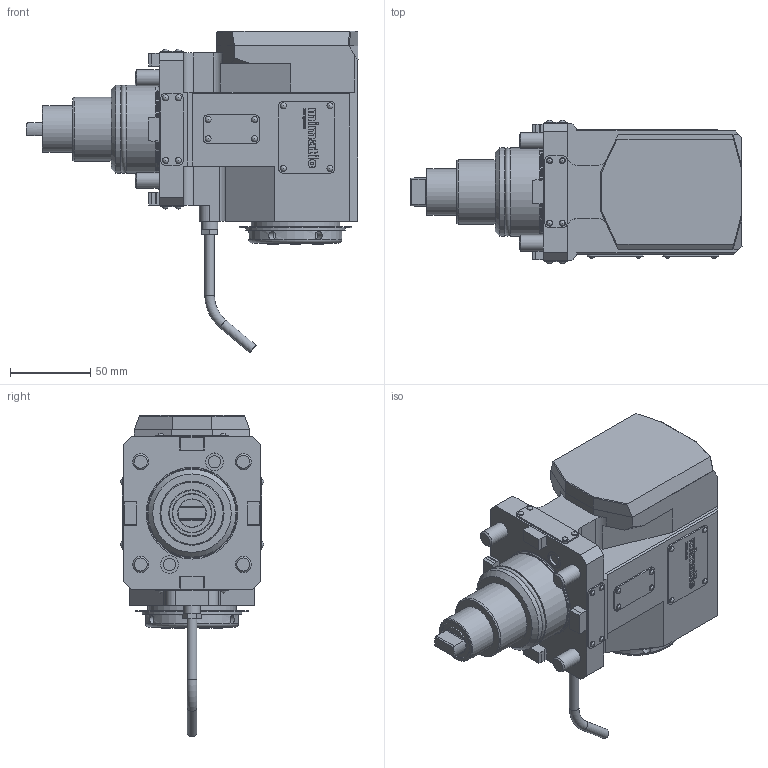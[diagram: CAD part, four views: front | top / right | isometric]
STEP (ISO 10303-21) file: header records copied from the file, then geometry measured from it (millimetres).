
FILE_DESCRIPTION(/* description */ (''),/* implementation_level */ '2;1');
FILE_NAME(/* name */ '188878',/* time_stamp */ '2020-09-07T08:11:24+02:00',/* author */ (''),/* organization */ (''),/* preprocessor_version */ 'ST-DEVELOPER v16.5',/* originating_system */ 'HiCAD 2017 2201.0 Build 268',/* authorisation */ '');
FILE_SCHEMA (('AUTOMOTIVE_DESIGN { 1 0 10303 214 1 1 1 1 }'));
Products named in the file (86): Root; Leeres Teil; 112977_Spannmutter ER32 HI_QERAX_350*; 003_000X; ROTATIONSTEIL_0_202*; DIN 13-M25x1; DIN 76-M5; DIN 76-M8; DIN 13-M40x1,5; ROTATIONSTEIL_0_105*; 001_000X_102*; DIN 13-M20x1; 003_000X_104*; 00040064_101*; DIN 6912 - M 10 x 30 - 8.8_Zylinderkopfschraube DIN 6912 - M 10 x 30 
- 8.8_400*; GEWINDE; 114052_O-Ring 49x3_331*; BG_M10; TORUS_1_352*; 112384_Doppelkegelring D6_350*; 112485_Überwurfschraube_351*; ͔Û; 173501_Kantsealring 7.65x1.68_330*; 00011769_371*; 113692_Kerbnagel 2x4_380*; QUADER_0_370*; GRUPPE; TRANSLATIONSTEIL_0_372*; TRANSLATIONSTEIL_1_112*; TRANSLATIONSTEIL_1_113*
Assembly tree (85 placements, depth 7):
  Root
    Leeres Teil
      Leeres Teil
        Leeres Teil
          112977_Spannmutter ER32 HI_QERAX_350*
            (unnamed)
            003_000X
        Leeres Teil
          ROTATIONSTEIL_0_202*
            DIN 13-M25x1
            DIN 76-M5
            DIN 76-M8
            DIN 13-M40x1,5
      Leeres Teil
        Leeres Teil
          ROTATIONSTEIL_0_105*
          001_000X_102*
            DIN 13-M20x1
      Leeres Teil
        Leeres Teil
          003_000X_104*
          00040064_101*
        Leeres Teil
          Leeres Teil
            DIN 6912 - M 10 x 30 - 8.8_Zylinderkopfschraube DIN 6912 - M 10 x 30 
- 8.8_400*
              GEWINDE
            DIN 6912 - M 10 x 30 - 8.8_Zylinderkopfschraube DIN 6912 - M 10 x 30 
- 8.8_400*
              GEWINDE
            DIN 6912 - M 10 x 30 - 8.8_Zylinderkopfschraube DIN 6912 - M 10 x 30 
- 8.8_400*
              GEWINDE
            DIN 6912 - M 10 x 30 - 8.8_Zylinderkopfschraube DIN 6912 - M 10 x 30 
- 8.8_400*
              GEWINDE
          Leeres Teil
            114052_O-Ring 49x3_331*
          BG_M10
            TORUS_1_352*
            112384_Doppelkegelring D6_350*
            112485_Überwurfschraube_351*
              ͔Û
          173501_Kantsealring 7.65x1.68_330*
          173501_Kantsealring 7.65x1.68_330*
          Leeres Teil
            00011769_371*
            113692_Kerbnagel 2x4_380*
            113692_Kerbnagel 2x4_380*
            113692_Kerbnagel 2x4_380*
            113692_Kerbnagel 2x4_380*
          Leeres Teil
            113692_Kerbnagel 2x4_380*
            113692_Kerbnagel 2x4_380*
            113692_Kerbnagel 2x4_380*
            113692_Kerbnagel 2x4_380*
            QUADER_0_370*
        GRUPPE
          Leeres Teil
            Leeres Teil
              113692_Kerbnagel 2x4_380*
              113692_Kerbnagel 2x4_380*
              113692_Kerbnagel 2x4_380*
              113692_Kerbnagel 2x4_380*
Bounding box: 207 x 89.6 x 200.37 mm (x, y, z)
Volume: 1114845.4 mm3; surface area: 161732.9 mm2
Topology: 58 solids, 58 shells, 1018 faces, 2582 edges, 1711 vertices
Faces by surface type: plane 656, cylinder 254, bspline 38, cone 27, sphere 24, torus 19
Full cylindrical faces by diameter (mm): 2 x24, 2.2 x8, 2.3 x16, 4 x2, 5.1 x6, 6 x3, 6.8 x1, 7.65 x2, 8 x2, 8.16 x8, 8.773 x2, 10 x5, 11.01 x2, 11.1 x2, 20 x1, 23.5 x1, 27 x1, 29 x2, 38.16 x2, 38.5 x1, 40 x4, 40.501 x1, 49.6 x1, 54.5 x1, 54.9 x2, 55 x2, 58 x1, 62 x1, 70 x1
Entity records: 59179 total; most frequent: CARTESIAN_POINT 11111, DIRECTION 5012, PRESENTATION_STYLE_ASSIGNMENT 4694, ORIENTED_EDGE 4650, COLOUR_RGB 4642, OVER_RIDING_STYLED_ITEM 4636, DRAUGHTING_PRE_DEFINED_CURVE_FONT 4634, CURVE_STYLE 4634
